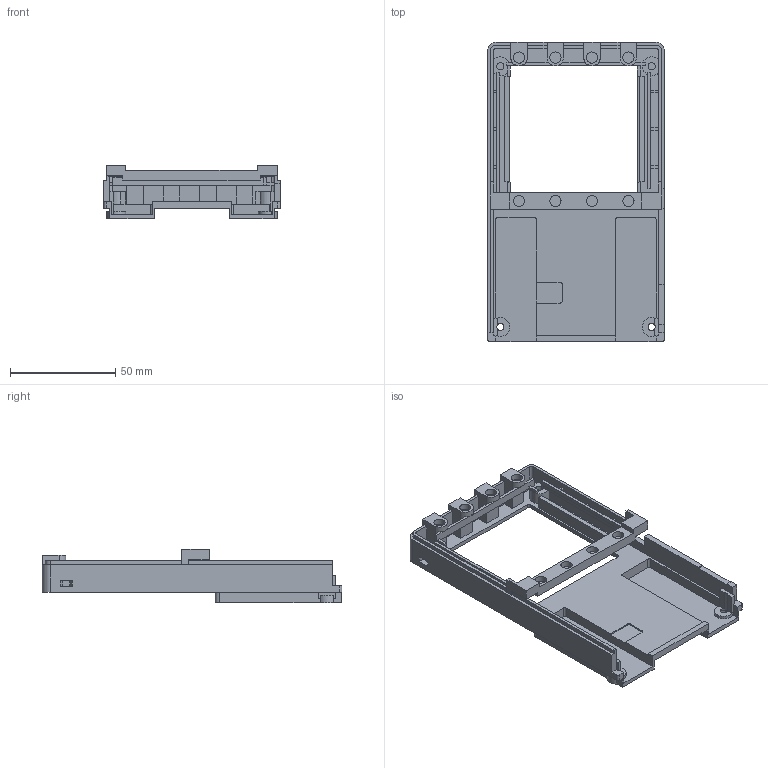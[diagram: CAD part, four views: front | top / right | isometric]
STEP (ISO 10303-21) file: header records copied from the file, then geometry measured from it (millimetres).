
FILE_DESCRIPTION(('FreeCAD Model'),'2;1');
FILE_NAME('Open CASCADE Shape Model','2026-11-05T07:51:55',('FreeCAD'),( 'FreeCAD'),'Open CASCADE STEP processor 7.8','FreeCAD','Unknown');
FILE_SCHEMA(('AUTOMOTIVE_DESIGN { 1 0 10303 214 1 1 1 1 }'));
Length unit declared in the file: millimetre
Products named in the file (1): Open CASCADE STEP translator 7.8 1
Bounding box: 84 x 142.4 x 25.6 mm (x, y, z)
Volume: 38474.4 mm3; surface area: 37661.1 mm2
Topology: 1 solids, 1 shells, 304 faces, 917 edges, 616 vertices
Faces by surface type: plane 258, cylinder 46
Full cylindrical faces by diameter (mm): 3.4 x6, 5.4 x8
Entity records: 10288 total; most frequent: CARTESIAN_POINT 1838, ORIENTED_EDGE 1834, DIRECTION 1656, EDGE_CURVE 917, LINE 788, VECTOR 788, VERTEX_POINT 616, AXIS2_PLACEMENT_3D 434
